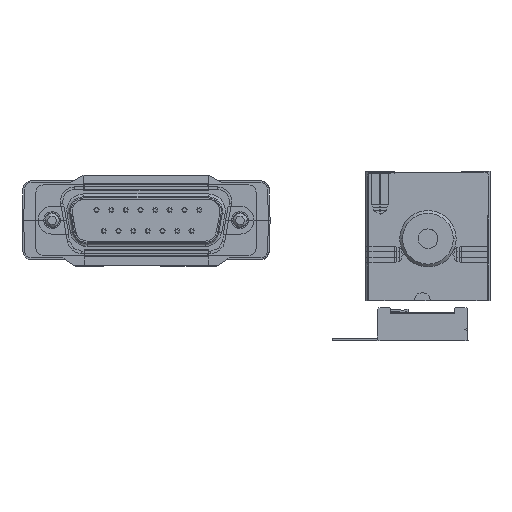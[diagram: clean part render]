
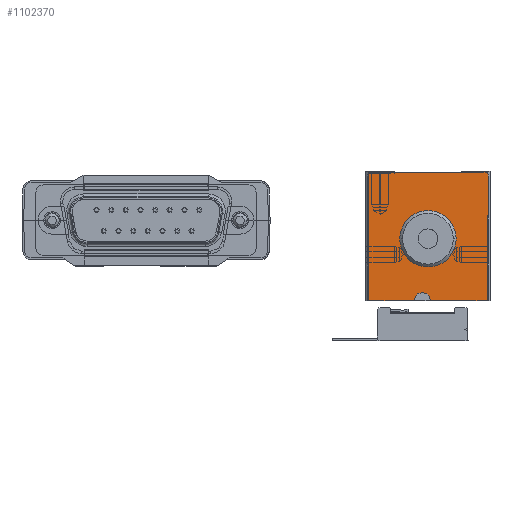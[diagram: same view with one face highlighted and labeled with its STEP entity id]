
A CAD part, front view. The second image highlights one B-rep face of the part: STEP entity #1102370.
In plain terms, the highlighted planar face has unit normal (0, -1, 0) as drawn and (1, 0, 0) by its records, which use the part's own axes.
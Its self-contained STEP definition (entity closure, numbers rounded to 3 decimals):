
#1093690=CARTESIAN_POINT('',(40.,22.,0.));
#1093700=DIRECTION('',(0.,-1.,0.));
#1093710=VECTOR('',#1093700,1.);
#1093720=LINE('',#1093690,#1093710);
#1093730=CARTESIAN_POINT('',(40.,5.,0.));
#1093740=VERTEX_POINT('',#1093730);
#1093750=CARTESIAN_POINT('',(40.,0.5,0.));
#1093760=VERTEX_POINT('',#1093750);
#1093770=EDGE_CURVE('',#1093740,#1093760,#1093720,.T.);
#1096640=CARTESIAN_POINT('',(40.,0.5,-23.));
#1096650=VERTEX_POINT('',#1096640);
#1096680=CARTESIAN_POINT('',(40.,0.,-23.));
#1096690=DIRECTION('',(0.,1.,0.));
#1096700=VECTOR('',#1096690,1.);
#1096710=LINE('',#1096680,#1096700);
#1096720=CARTESIAN_POINT('',(40.,8.6,-23.));
#1096730=VERTEX_POINT('',#1096720);
#1096740=EDGE_CURVE('',#1096650,#1096730,#1096710,.T.);
#1096960=CARTESIAN_POINT('',(40.,11.4,-23.));
#1096970=VERTEX_POINT('',#1096960);
#1097000=CARTESIAN_POINT('',(40.,21.5,-23.));
#1097010=VERTEX_POINT('',#1097000);
#1097020=EDGE_CURVE('',#1096970,#1097010,#1096710,.T.);
#1098940=CARTESIAN_POINT('',(40.,11.4,0.));
#1098950=DIRECTION('',(0.,0.,1.));
#1098960=VECTOR('',#1098950,1.);
#1098970=LINE('',#1098940,#1098960);
#1098980=CARTESIAN_POINT('',(40.,11.4,-22.8));
#1098990=VERTEX_POINT('',#1098980);
#1099000=EDGE_CURVE('',#1096970,#1098990,#1098970,.T.);
#1099670=CARTESIAN_POINT('',(40.,9.8,-22.8));
#1099680=DIRECTION('',(-1.,0.,0.));
#1099690=DIRECTION('',(0.,1.,0.));
#1099700=AXIS2_PLACEMENT_3D('',#1099670,#1099680,#1099690);
#1099710=CIRCLE('',#1099700,1.2);
#1099720=CARTESIAN_POINT('',(40.,8.6,-22.8));
#1099730=VERTEX_POINT('',#1099720);
#1099740=CARTESIAN_POINT('',(40.,9.8,-21.6));
#1099750=VERTEX_POINT('',#1099740);
#1099760=EDGE_CURVE('',#1099730,#1099750,#1099710,.T.);
#1099990=CARTESIAN_POINT('',(40.,0.,-21.6));
#1100000=DIRECTION('',(0.,-1.,0.));
#1100010=VECTOR('',#1100000,1.);
#1100020=LINE('',#1099990,#1100010);
#1100030=CARTESIAN_POINT('',(40.,10.2,-21.6));
#1100040=VERTEX_POINT('',#1100030);
#1100050=EDGE_CURVE('',#1100040,#1099750,#1100020,.T.);
#1100250=CARTESIAN_POINT('',(40.,10.2,-22.8));
#1100260=DIRECTION('',(-1.,0.,0.));
#1100270=DIRECTION('',(0.,1.,0.));
#1100280=AXIS2_PLACEMENT_3D('',#1100250,#1100260,#1100270);
#1100290=CIRCLE('',#1100280,1.2);
#1100300=EDGE_CURVE('',#1100040,#1098990,#1100290,.T.);
#1100430=CARTESIAN_POINT('',(40.,8.6,0.));
#1100440=DIRECTION('',(0.,0.,-1.));
#1100450=VECTOR('',#1100440,1.);
#1100460=LINE('',#1100430,#1100450);
#1100470=EDGE_CURVE('',#1099730,#1096730,#1100460,.T.);
#1100580=CARTESIAN_POINT('',(40.,5.846,-7.9));
#1100590=DIRECTION('',(0.,-1.,0.));
#1100600=VECTOR('',#1100590,1.);
#1100610=LINE('',#1100580,#1100600);
#1100620=CARTESIAN_POINT('',(40.,21.8,-7.9));
#1100630=VERTEX_POINT('',#1100620);
#1100640=CARTESIAN_POINT('',(40.,21.5,-7.9));
#1100650=VERTEX_POINT('',#1100640);
#1100660=EDGE_CURVE('',#1100630,#1100650,#1100610,.T.);
#1101390=CARTESIAN_POINT('',(40.,0.1,-0.8))
;
#1101400=DIRECTION('',(1.,-0.,0.));
#1101410=DIRECTION('',(0.,0.,-1.));
#1101420=AXIS2_PLACEMENT_3D('',#1101390,#1101400,#1101410);
#1101430=PLANE('',#1101420);
#1101440=CARTESIAN_POINT('',(40.,20.9,-1.1));
#1101450=DIRECTION('',(1.,0.,0.));
#1101460=DIRECTION('',(0.,-1.,0.));
#1101470=AXIS2_PLACEMENT_3D('',#1101440,#1101450,#1101460);
#1101480=CIRCLE('',#1101470,0.9);
#1101490=CARTESIAN_POINT('',(40.,21.8,-1.1));
#1101500=VERTEX_POINT('',#1101490);
#1101510=CARTESIAN_POINT('',(40.,20.9,-0.2));
#1101520=VERTEX_POINT('',#1101510);
#1101530=EDGE_CURVE('',#1101500,#1101520,#1101480,.T.);
#1101540=ORIENTED_EDGE('',*,*,#1101530,.T.);
#1101550=CARTESIAN_POINT('',(40.,21.8,-0.8));
#1101560=DIRECTION('',(0.,0.,1.));
#1101570=VECTOR('',#1101560,1.);
#1101580=LINE('',#1101550,#1101570);
#1101590=EDGE_CURVE('',#1100630,#1101500,#1101580,.T.);
#1101600=ORIENTED_EDGE('',*,*,#1101590,.T.);
#1101610=ORIENTED_EDGE('',*,*,#1100660,.F.);
#1101620=CARTESIAN_POINT('',(40.,21.5,0.));
#1101630=DIRECTION('',(0.,0.,1.));
#1101640=VECTOR('',#1101630,1.);
#1101650=LINE('',#1101620,#1101640);
#1101660=CARTESIAN_POINT('',(40.,21.5,-8.));
#1101670=VERTEX_POINT('',#1101660);
#1101680=EDGE_CURVE('',#1101670,#1100650,#1101650,.T.);
#1101690=ORIENTED_EDGE('',*,*,#1101680,.T.);
#1101700=CARTESIAN_POINT('',(40.,21.5,-15.5));
#1101710=DIRECTION('',(0.,0.,-1.));
#1101720=VECTOR('',#1101710,1.);
#1101730=LINE('',#1101700,#1101720);
#1101740=EDGE_CURVE('',#1101670,#1097010,#1101730,.T.);
#1101750=ORIENTED_EDGE('',*,*,#1101740,.F.);
#1101760=ORIENTED_EDGE('',*,*,#1097020,.T.);
#1101770=ORIENTED_EDGE('',*,*,#1099000,.F.);
#1101780=ORIENTED_EDGE('',*,*,#1100300,.T.);
#1101790=ORIENTED_EDGE('',*,*,#1100050,.F.);
#1101800=ORIENTED_EDGE('',*,*,#1099760,.T.);
#1101810=ORIENTED_EDGE('',*,*,#1100470,.F.);
#1101820=ORIENTED_EDGE('',*,*,#1096740,.T.);
#1101830=CARTESIAN_POINT('',(40.,0.5,-11.5));
#1101840=DIRECTION('',(0.,0.,-1.));
#1101850=VECTOR('',#1101840,1.);
#1101860=LINE('',#1101830,#1101850);
#1101870=EDGE_CURVE('',#1093760,#1096650,#1101860,.T.);
#1101880=ORIENTED_EDGE('',*,*,#1101870,.T.);
#1101890=ORIENTED_EDGE('',*,*,#1093770,.T.);
#1101900=CARTESIAN_POINT('',(40.,5.,0.));
#1101910=DIRECTION('',(0.,0.,-1.));
#1101920=VECTOR('',#1101910,1.);
#1101930=LINE('',#1101900,#1101920);
#1101940=CARTESIAN_POINT('',(40.,5.,-0.5));
#1101950=VERTEX_POINT('',#1101940);
#1101960=EDGE_CURVE('',#1093740,#1101950,#1101930,.T.);
#1101970=ORIENTED_EDGE('',*,*,#1101960,.F.);
#1101980=CARTESIAN_POINT('',(40.,0.,-0.5));
#1101990=DIRECTION('',(0.,-1.,0.));
#1102000=VECTOR('',#1101990,1.);
#1102010=LINE('',#1101980,#1102000);
#1102020=CARTESIAN_POINT('',(40.,5.05,-0.5));
#1102030=VERTEX_POINT('',#1102020);
#1102040=EDGE_CURVE('',#1102030,#1101950,#1102010,.T.);
#1102050=ORIENTED_EDGE('',*,*,#1102040,.T.);
#1102060=CARTESIAN_POINT('',(40.,5.05,-0.8));
#1102070=DIRECTION('',(0.,0.,1.));
#1102080=VECTOR('',#1102070,1.);
#1102090=LINE('',#1102060,#1102080);
#1102100=CARTESIAN_POINT('',(40.,5.05,-0.2));
#1102110=VERTEX_POINT('',#1102100);
#1102120=EDGE_CURVE('',#1102030,#1102110,#1102090,.T.);
#1102130=ORIENTED_EDGE('',*,*,#1102120,.F.);
#1102140=CARTESIAN_POINT('',(40.,5.646,-0.2));
#1102150=DIRECTION('',(0.,1.,0.));
#1102160=VECTOR('',#1102150,1.);
#1102170=LINE('',#1102140,#1102160);
#1102180=EDGE_CURVE('',#1102110,#1101520,#1102170,.T.);
#1102190=ORIENTED_EDGE('',*,*,#1102180,.F.);
#1102200=EDGE_LOOP('',(#1102190,#1102130,#1102050,#1101970,#1101890,
#1101880,#1101820,#1101810,#1101800,#1101790,#1101780,#1101770,#1101760,
#1101750,#1101690,#1101610,#1101600,#1101540));
#1102210=FACE_OUTER_BOUND('',#1102200,.T.);
#1102220=CARTESIAN_POINT('',(40.,11.,-12.));
#1102230=DIRECTION('',(1.,0.,0.));
#1102240=DIRECTION('',(0.,1.,0.));
#1102250=AXIS2_PLACEMENT_3D('',#1102220,#1102230,#1102240);
#1102260=CIRCLE('',#1102250,5.);
#1102270=CARTESIAN_POINT('',(40.,16.,-12.));
#1102280=VERTEX_POINT('',#1102270);
#1102290=CARTESIAN_POINT('',(40.,6.,-12.));
#1102300=VERTEX_POINT('',#1102290);
#1102310=EDGE_CURVE('',#1102280,#1102300,#1102260,.T.);
#1102320=ORIENTED_EDGE('',*,*,#1102310,.F.);
#1102330=EDGE_CURVE('',#1102300,#1102280,#1102260,.T.);
#1102340=ORIENTED_EDGE('',*,*,#1102330,.F.);
#1102350=EDGE_LOOP('',(#1102340,#1102320));
#1102360=FACE_BOUND('',#1102350,.T.);
#1102370=ADVANCED_FACE('',(#1102210,#1102360),#1101430,.T.);
